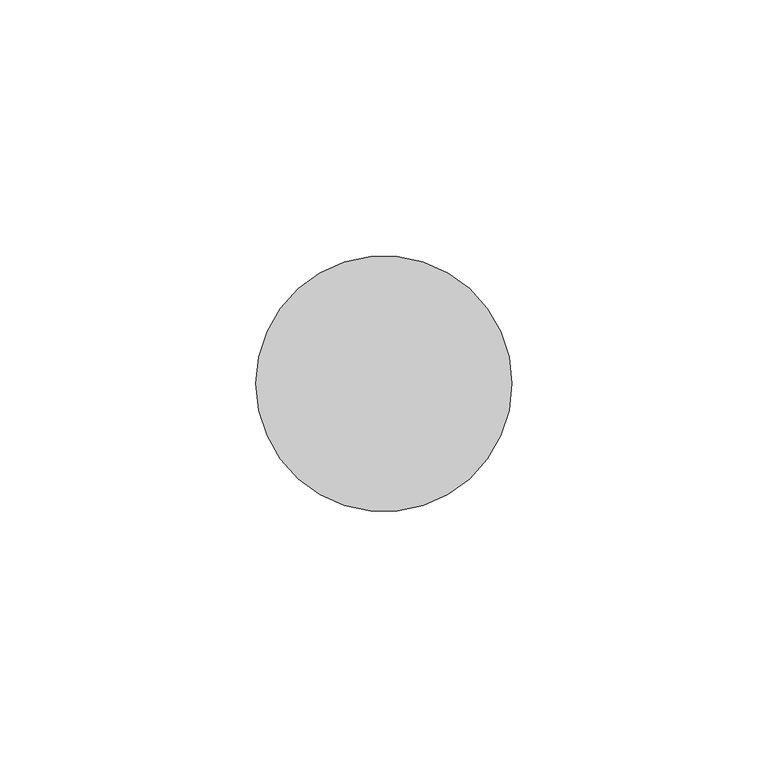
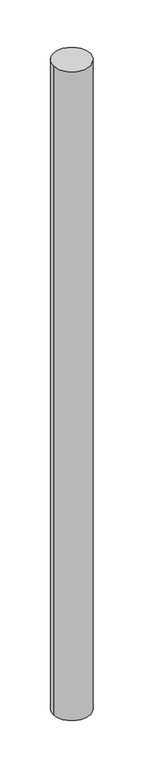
"""IFC4 building model written with IfcOpenShell, lengths in millimetres: member geometry, 圓形豎框 : 25mm 半徑."""

from ifc_helpers import new_model, si_unit, point, frame, origin, origin_2d, place, context, project, spatial, circle_curve, trimmed, segment, composite_curve, outline, extrude, source, transform, mapped, element, save


def member_91c2d102(model_context):
    return source(origin(), model_context, "Body", "SweptSolid", [
        extrude(outline(composite_curve([segment(trimmed(circle_curve(origin_2d(), 25.0), [point((25.0, 0.0))], [point((-25.0, 0.0))], False, "CARTESIAN"), True, "CONTINUOUS"), segment(trimmed(circle_curve(origin_2d(), 25.0), [point((-25.0, 0.0))], [point((25.0, 0.0))], False, "CARTESIAN"), True, "CONTINUOUS")], self_intersect=False)), frame((0.0, 0.0, -924.9645194), z_axis=(0.0, 0.0, 1.0), x_axis=(1.0, 0.0, 0.0)), (0.0, 0.0, 1.0), 924.9645194),
    ])


if __name__ == "__main__":
    model = new_model("IFC4")
    model_context = context("Model", 3, world=origin())
    ifc_project = project(units=[si_unit("LENGTHUNIT", "METRE", prefix="MILLI")], contexts=[model_context])
    site = spatial("IfcSite", under=ifc_project)
    building = spatial("IfcBuilding", under=site)
    placement = place(None, origin())
    member_shape = member_91c2d102(model_context)
    element("IfcMember", 1, ObjectType="圓形豎框 : 25mm 半徑", at=placement, inside=building, context=model_context, shape_type="MappedRepresentation", body=[
        mapped(member_shape, transform((0.0, 0.0, 0.0), x_axis=(1.0, 0.0, 0.0), y_axis=(0.0, 1.0, 0.0), z_axis=(0.0, 0.0, 1.0))),
    ])
    save(model, "model.ifc")
